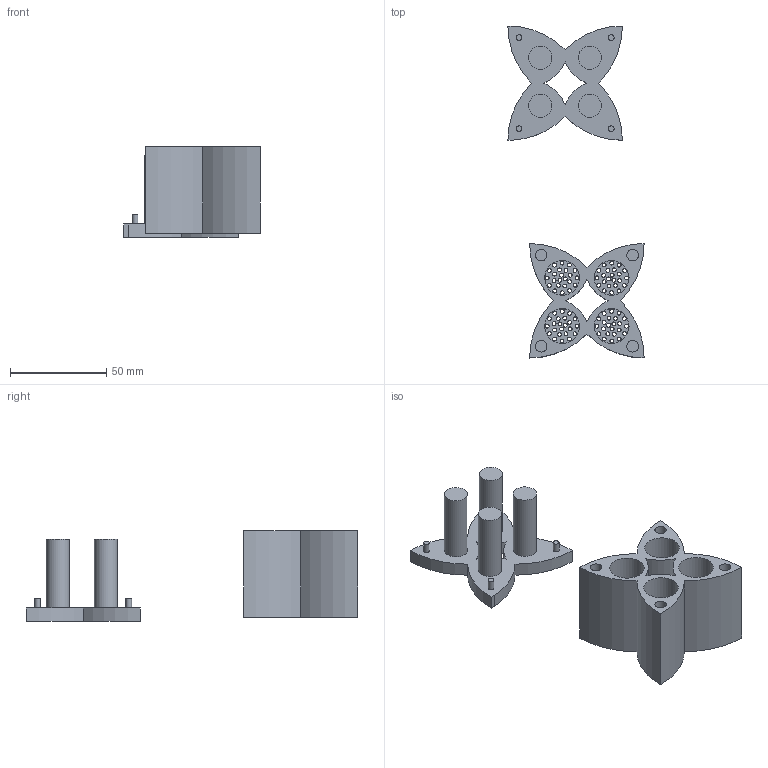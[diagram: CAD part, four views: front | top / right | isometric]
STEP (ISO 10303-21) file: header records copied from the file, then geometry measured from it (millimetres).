
FILE_DESCRIPTION(/* description */ (''),/* implementation_level */ '2;1');
FILE_NAME(/* name */ '5fb69d82f1962d16458274f0',/* time_stamp */ '2020-11-19T16:29:55+00:00',/* author */ (''),/* organization */ (''),/* preprocessor_version */ 'ST-DEVELOPER v16.7',/* originating_system */ $,/* authorisation */ $);
FILE_SCHEMA (('AUTOMOTIVE_DESIGN {1 0 10303 214 3 1 1}'));
Length unit declared in the file: metre
Products named in the file (3): Assembly 1; Part 2; Part 1
Assembly tree (2 placements, depth 2):
  Assembly 1
    Part 2
    Part 1
Bounding box: 70.73 x 172.32 x 47.18 mm (x, y, z)
Volume: 99959.8 mm3; surface area: 44062.6 mm2
Topology: 2 solids, 2 shells, 154 faces, 402 edges, 268 vertices
Faces by surface type: cylinder 132, plane 22
Full cylindrical faces by diameter (mm): 2 x92, 3 x4, 6 x4, 12 x4, 18 x4
Entity records: 4804 total; most frequent: DIRECTION 870, CARTESIAN_POINT 725, ORIENTED_EDGE 588, EDGE_LOOP 466, FACE_BOUND 466, AXIS2_PLACEMENT_3D 421, EDGE_CURVE 294, VERTEX_POINT 268
